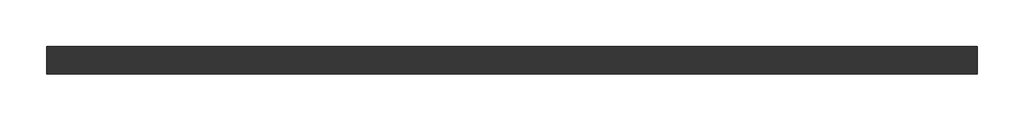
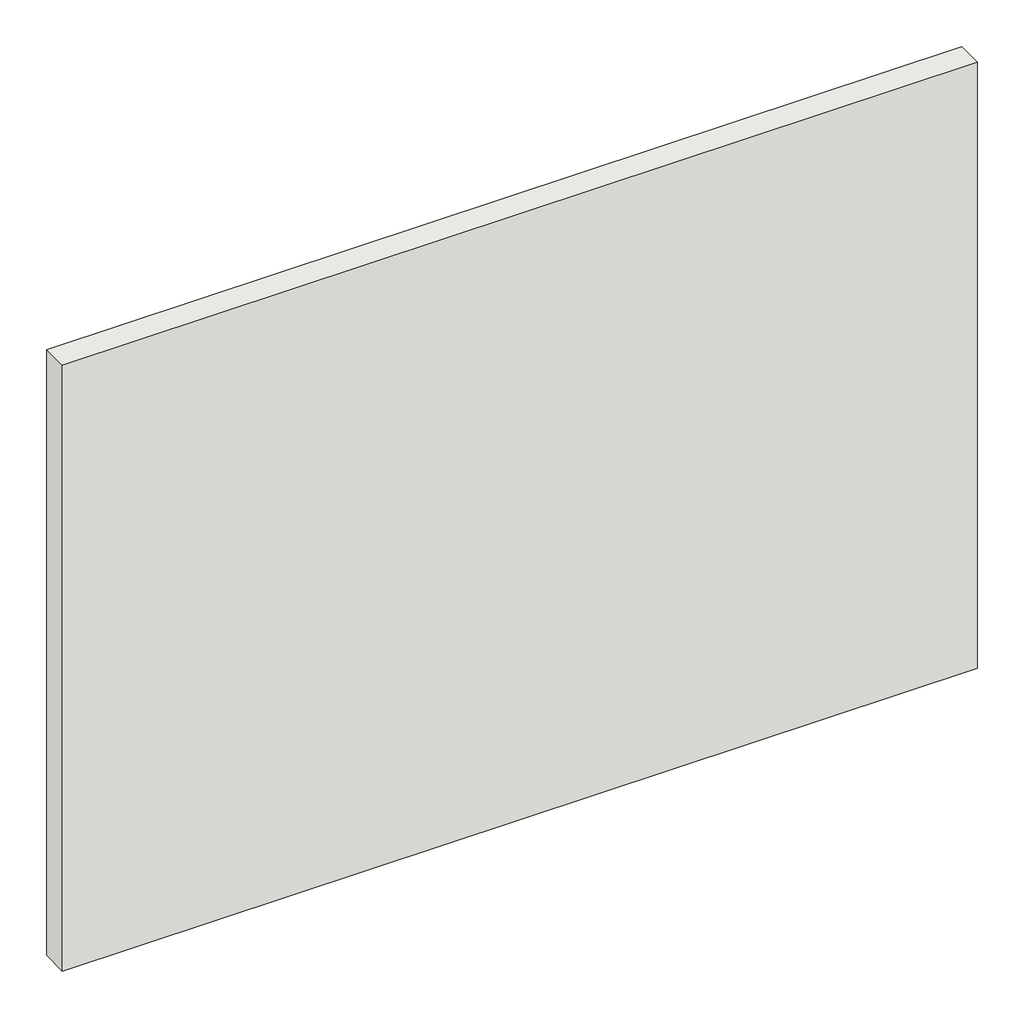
# One storey: 1 wall.
"""IFC4 building model written with IfcOpenShell, lengths in millimetres."""

from ifc_helpers import new_model, si_unit, frame, origin, place, context, project, spatial, polyline, outline, extrude, element, save

model = new_model("IFC4")

# Units and contexts
model_context = context("Model", 3, world=origin())
ifc_project = project(units=[si_unit("LENGTHUNIT", "METRE", prefix="MILLI")], contexts=[model_context])

# Site, building, storey
site = spatial("IfcSite", under=ifc_project)
building = spatial("IfcBuilding", under=site)
storey = spatial("IfcBuildingStorey", under=building, Name="レベル 1", Elevation=500.0)

# Wall
placement = place(None, origin())
element("IfcWall", 1, ObjectType="標準-150mm", at=placement, inside=storey, context=model_context, shape_type="SweptSolid", body=[
    extrude(outline(polyline([(409.2866758, -1856.9623656), (-4590.7133242, -1856.9623656), (-4590.7133242, -1706.9623656), (409.2866758, -1706.9623656), (409.2866758, -1856.9623656)])), frame((0.0, 0.0, 500.0), z_axis=(0.0, 0.0, 1.0), x_axis=(1.0, 0.0, 0.0)), (0.0, 0.0, 1.0), 3500.0),
])

save(model, "model.ifc")
